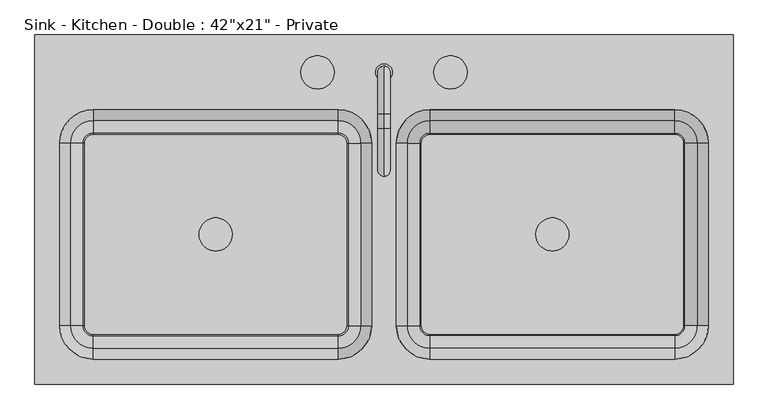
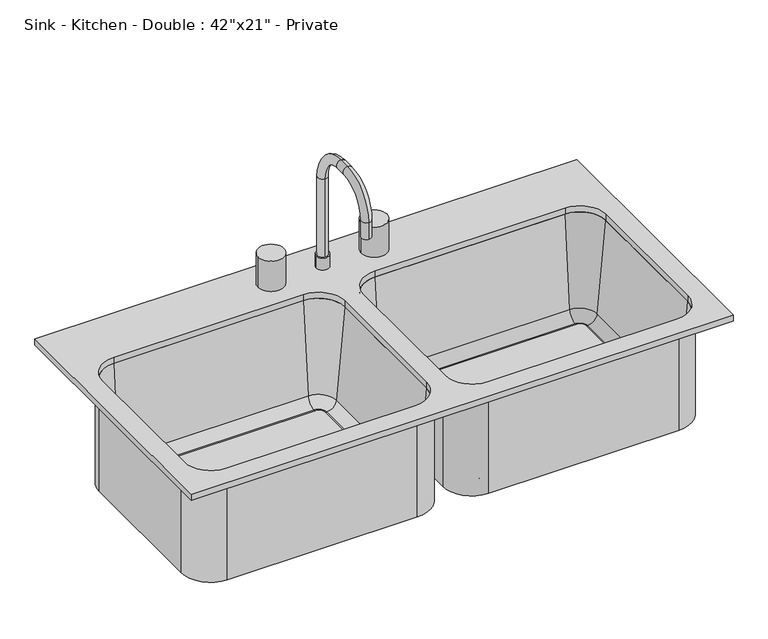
"""IFC4 building model written with IfcOpenShell, lengths in millimetres: flow terminal geometry."""

from ifc_helpers import new_model, si_unit, point, frame, frame_2d, origin, origin_with_axes, place, context, project, spatial, polyline, circle_curve, ellipse_curve, trimmed, segment, composite_curve, outline, extrude, source, transform, mapped, element, save
from ifc_brep_helpers import plane_surface, cylinder_surface, revolved_surface, advanced_brep


def flow_terminal_f86be223(model_context):
    return source(origin(), model_context, "Body", "SolidModel", [
        extrude(outline(composite_curve([segment(trimmed(circle_curve(frame_2d((444.5, -165.1)), 12.7), [point((444.5, -152.4))], [point((457.2, -165.1))], False, "CARTESIAN"), True, "CONTINUOUS"), segment(polyline([(457.2, -165.1), (457.2, -444.5)]), True, "CONTINUOUS"), segment(trimmed(circle_curve(frame_2d((444.5, -444.5)), 12.7), [point((457.2, -444.5))], [point((444.5, -457.2))], False, "CARTESIAN"), True, "CONTINUOUS"), segment(polyline([(444.5, -457.2), (69.85, -457.2)]), True, "CONTINUOUS"), segment(trimmed(circle_curve(frame_2d((69.85, -444.5)), 12.7), [point((69.85, -457.2))], [point((57.15, -444.5))], False, "CARTESIAN"), True, "CONTINUOUS"), segment(polyline([(57.15, -444.5), (57.15, -165.1)]), True, "CONTINUOUS"), segment(trimmed(circle_curve(frame_2d((69.85, -165.1)), 12.7), [point((57.15, -165.1))], [point((69.85, -152.4))], False, "CARTESIAN"), True, "CONTINUOUS"), segment(polyline([(69.85, -152.4), (444.5, -152.4)]), True, "CONTINUOUS")], self_intersect=False), holes=[composite_curve([segment(trimmed(circle_curve(frame_2d((257.175, -304.8)), 25.4), [point((231.775, -304.8))], [point((282.575, -304.8))], True, "CARTESIAN"), True, "CONTINUOUS"), segment(trimmed(circle_curve(frame_2d((257.175, -304.8)), 25.4), [point((282.575, -304.8))], [point((231.775, -304.8))], True, "CARTESIAN"), True, "CONTINUOUS")], self_intersect=False)]), frame((0.0, 0.0, -215.9), z_axis=(0.0, 0.0, 1.0), x_axis=(1.0, 0.0, 0.0)), (0.0, 0.0, 1.0), 9.525),
        advanced_brep(
        [(19.05, -165.1, 0.0), (69.85, -114.3, 0.0), (69.85, -107.95, 0.0), (12.7, -165.1, 0.0), (35.5840728, -165.1, -188.9853169), (69.85, -130.8340728, -188.9853169), (54.5615818, -165.1, -206.375), (69.85, -149.8115818, -206.375), (57.15, -165.1, -206.375), (69.85, -152.4, -206.375), (57.15, -165.1, -215.9), (69.85, -152.4, -215.9), (12.7, -165.1, -215.9), (69.85, -107.95, -215.9), (12.7, -444.5, 0.0), (19.05, -444.5, 0.0), (35.5840728, -444.5, -188.9853169), (54.5615818, -444.5, -206.375), (57.15, -444.5, -206.375), (57.15, -444.5, -215.9), (12.7, -444.5, -215.9), (69.85, -495.3, 0.0), (69.85, -501.65, 0.0), (69.85, -478.7659272, -188.9853169), (69.85, -459.7884182, -206.375), (69.85, -457.2, -206.375), (69.85, -457.2, -215.9), (69.85, -501.65, -215.9), (444.5, -501.65, 0.0), (444.5, -495.3, 0.0), (444.5, -478.7659272, -188.9853169), (444.5, -459.7884182, -206.375), (444.5, -457.2, -206.375), (444.5, -457.2, -215.9), (444.5, -501.65, -215.9), (495.3, -444.5, 0.0), (501.65, -444.5, 0.0), (478.7659272, -444.5, -188.9853169), (459.7884182, -444.5, -206.375), (457.2, -444.5, -206.375), (457.2, -444.5, -215.9), (501.65, -444.5, -215.9), (501.65, -165.1, 0.0), (495.3, -165.1, 0.0), (478.7659272, -165.1, -188.9853169), (459.7884182, -165.1, -206.375), (457.2, -165.1, -206.375), (457.2, -165.1, -215.9), (501.65, -165.1, -215.9), (444.5, -114.3, 0.0), (444.5, -107.95, 0.0), (444.5, -130.8340728, -188.9853169), (444.5, -149.8115818, -206.375), (444.5, -152.4, -206.375), (444.5, -152.4, -215.9), (444.5, -107.95, -215.9)],
        [
            (0, 1, circle_curve(frame((69.85, -165.1, 0.0), z_axis=(0.0, 0.0, -1.0), x_axis=(0.0, 1.0, 0.0)), 50.8)),
            (1, 2),
            (2, 3, circle_curve(frame((69.85, -165.1, 0.0), z_axis=(0.0, 0.0, 1.0), x_axis=(0.0, 1.0, 0.0)), 57.15)),
            (3, 0),
            (4, 5, circle_curve(frame((69.85, -165.1, -188.9853169), z_axis=(0.0, 0.0, -1.0), x_axis=(0.0, 1.0, 0.0)), 34.2659272)),
            (5, 1),
            (0, 4),
            (6, 7, circle_curve(frame((69.85, -165.1, -206.375), z_axis=(0.0, 0.0, -1.0), x_axis=(0.0, 1.0, 0.0)), 15.2884182)),
            (7, 5, circle_curve(frame((69.85, -149.8115818, -187.325), z_axis=(1.0, 0.0, 0.0), x_axis=(0.0, -1.0, 0.0)), 19.05)),
            (4, 6, circle_curve(frame((54.5615818, -165.1, -187.325), z_axis=(0.0, -1.0, 0.0), x_axis=(1.0, 0.0, 0.0)), 19.05)),
            (8, 9, circle_curve(frame((69.85, -165.1, -206.375), z_axis=(0.0, 0.0, -1.0), x_axis=(0.0, 1.0, 0.0)), 12.7)),
            (9, 7),
            (6, 8),
            (10, 11, circle_curve(frame((69.85, -165.1, -215.9), z_axis=(0.0, 0.0, -1.0), x_axis=(0.0, 1.0, 0.0)), 12.7)),
            (11, 9),
            (8, 10),
            (12, 13, circle_curve(frame((69.85, -165.1, -215.9), z_axis=(0.0, 0.0, -1.0), x_axis=(0.0, 1.0, 0.0)), 57.15)),
            (13, 11),
            (10, 12),
            (2, 13),
            (12, 3),
            (3, 14),
            (14, 15),
            (15, 0),
            (15, 16),
            (16, 4),
            (16, 17, circle_curve(frame((54.5615818, -444.5, -187.325), z_axis=(0.0, -1.0, 0.0), x_axis=(1.0, 0.0, 0.0)), 19.05)),
            (17, 6),
            (17, 18),
            (18, 8),
            (18, 19),
            (19, 10),
            (19, 20),
            (20, 12),
            (20, 14),
            (21, 15, circle_curve(frame((69.85, -444.5, 0.0), z_axis=(0.0, 0.0, -1.0), x_axis=(-1.0, 0.0, 0.0)), 50.8)),
            (14, 22, circle_curve(frame((69.85, -444.5, 0.0), z_axis=(0.0, 0.0, 1.0), x_axis=(-1.0, 0.0, 0.0)), 57.15)),
            (22, 21),
            (23, 16, circle_curve(frame((69.85, -444.5, -188.9853169), z_axis=(0.0, 0.0, -1.0), x_axis=(-1.0, 0.0, 0.0)), 34.2659272)),
            (21, 23),
            (24, 17, circle_curve(frame((69.85, -444.5, -206.375), z_axis=(0.0, 0.0, -1.0), x_axis=(-1.0, 0.0, 0.0)), 15.2884182)),
            (23, 24, circle_curve(frame((69.85, -459.7884182, -187.325), z_axis=(1.0, 0.0, 0.0), x_axis=(0.0, 1.0, 0.0)), 19.05)),
            (25, 18, circle_curve(frame((69.85, -444.5, -206.375), z_axis=(0.0, 0.0, -1.0), x_axis=(-1.0, 0.0, 0.0)), 12.7)),
            (24, 25),
            (26, 19, circle_curve(frame((69.85, -444.5, -215.9), z_axis=(0.0, 0.0, -1.0), x_axis=(-1.0, 0.0, 0.0)), 12.7)),
            (25, 26),
            (27, 20, circle_curve(frame((69.85, -444.5, -215.9), z_axis=(0.0, 0.0, -1.0), x_axis=(-1.0, 0.0, 0.0)), 57.15)),
            (26, 27),
            (27, 22),
            (22, 28),
            (28, 29),
            (29, 21),
            (29, 30),
            (30, 23),
            (30, 31, circle_curve(frame((444.5, -459.7884182, -187.325), z_axis=(1.0, 0.0, 0.0), x_axis=(0.0, 1.0, 0.0)), 19.05)),
            (31, 24),
            (31, 32),
            (32, 25),
            (32, 33),
            (33, 26),
            (33, 34),
            (34, 27),
            (34, 28),
            (35, 29, circle_curve(frame((444.5, -444.5, 0.0), z_axis=(0.0, 0.0, -1.0), x_axis=(0.0, -1.0, 0.0)), 50.8)),
            (28, 36, circle_curve(frame((444.5, -444.5, 0.0), z_axis=(0.0, 0.0, 1.0), x_axis=(0.0, -1.0, 0.0)), 57.15)),
            (36, 35),
            (37, 30, circle_curve(frame((444.5, -444.5, -188.9853169), z_axis=(0.0, 0.0, -1.0), x_axis=(0.0, -1.0, 0.0)), 34.2659272)),
            (35, 37),
            (38, 31, circle_curve(frame((444.5, -444.5, -206.375), z_axis=(0.0, 0.0, -1.0), x_axis=(0.0, -1.0, 0.0)), 15.2884182)),
            (37, 38, circle_curve(frame((459.7884182, -444.5, -187.325), z_axis=(0.0, 1.0, 0.0), x_axis=(-1.0, 0.0, 0.0)), 19.05)),
            (39, 32, circle_curve(frame((444.5, -444.5, -206.375), z_axis=(0.0, 0.0, -1.0), x_axis=(0.0, -1.0, 0.0)), 12.7)),
            (38, 39),
            (40, 33, circle_curve(frame((444.5, -444.5, -215.9), z_axis=(0.0, 0.0, -1.0), x_axis=(0.0, -1.0, 0.0)), 12.7)),
            (39, 40),
            (41, 34, circle_curve(frame((444.5, -444.5, -215.9), z_axis=(0.0, 0.0, -1.0), x_axis=(0.0, -1.0, 0.0)), 57.15)),
            (40, 41),
            (41, 36),
            (36, 42),
            (42, 43),
            (43, 35),
            (43, 44),
            (44, 37),
            (44, 45, circle_curve(frame((459.7884182, -165.1, -187.325), z_axis=(0.0, 1.0, 0.0), x_axis=(-1.0, 0.0, 0.0)), 19.05)),
            (45, 38),
            (45, 46),
            (46, 39),
            (46, 47),
            (47, 40),
            (47, 48),
            (48, 41),
            (48, 42),
            (49, 43, circle_curve(frame((444.5, -165.1, 0.0), z_axis=(0.0, 0.0, -1.0), x_axis=(1.0, 0.0, 0.0)), 50.8)),
            (42, 50, circle_curve(frame((444.5, -165.1, 0.0), z_axis=(0.0, 0.0, 1.0), x_axis=(1.0, 0.0, 0.0)), 57.15)),
            (50, 49),
            (51, 44, circle_curve(frame((444.5, -165.1, -188.9853169), z_axis=(0.0, 0.0, -1.0), x_axis=(1.0, 0.0, 0.0)), 34.2659272)),
            (49, 51),
            (52, 45, circle_curve(frame((444.5, -165.1, -206.375), z_axis=(0.0, 0.0, -1.0), x_axis=(1.0, 0.0, 0.0)), 15.2884182)),
            (51, 52, circle_curve(frame((444.5, -149.8115818, -187.325), z_axis=(-1.0, 0.0, 0.0), x_axis=(0.0, -1.0, 0.0)), 19.05)),
            (53, 46, circle_curve(frame((444.5, -165.1, -206.375), z_axis=(0.0, 0.0, -1.0), x_axis=(1.0, 0.0, 0.0)), 12.7)),
            (52, 53),
            (54, 47, circle_curve(frame((444.5, -165.1, -215.9), z_axis=(0.0, 0.0, -1.0), x_axis=(1.0, 0.0, 0.0)), 12.7)),
            (53, 54),
            (55, 48, circle_curve(frame((444.5, -165.1, -215.9), z_axis=(0.0, 0.0, -1.0), x_axis=(1.0, 0.0, 0.0)), 57.15)),
            (54, 55),
            (55, 50),
            (50, 2),
            (1, 49),
            (5, 51),
            (7, 52),
            (9, 53),
            (11, 54),
            (13, 55),
        ],
        [
            plane_surface(frame((69.85, -165.1, 0.0), z_axis=(0.0, 0.0, 1.0), x_axis=(0.0, 1.0, 0.0))),
            revolved_surface(polyline([(69.85, -114.3, 0.0), (69.85, -130.8340728, -188.9853169)]), (69.85, -165.1, -914.4), (0.0, 0.0, 1.0)),
            revolved_surface(trimmed(ellipse_curve(frame((69.85, -149.8115818, -187.325), z_axis=(-1.0, 0.0, 0.0), x_axis=(0.0, -1.0, 0.0)), 19.05, 19.05), [point((69.85, -130.8340728, -188.9853169))], [point((69.85, -149.8115818, -206.375))], True, "CARTESIAN"), (69.85, -165.1, -914.4), (0.0, 0.0, 1.0)),
            plane_surface(frame((69.85, -165.1, -206.375), z_axis=(0.0, 0.0, 1.0), x_axis=(0.0, 1.0, 0.0))),
            revolved_surface(polyline([(69.85, -152.4, -206.375), (69.85, -152.4, -215.89999999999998)]), (69.85, -165.1, -914.4), (0.0, 0.0, 1.0)),
            plane_surface(frame((69.85, -165.1, -215.9), z_axis=(0.0, 0.0, -1.0), x_axis=(0.0, 1.0, 0.0))),
            cylinder_surface(frame((69.85, -165.1, -914.4), z_axis=(0.0, 0.0, 1.0), x_axis=(0.0, 1.0, 0.0)), 57.15),
            plane_surface(frame((12.7, -165.1, 0.0), z_axis=(0.0, 0.0, 1.0), x_axis=(0.0, -1.0, 0.0))),
            plane_surface(frame((19.05, -165.1, 0.0), z_axis=(0.9961946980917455, 0.0, 0.0871557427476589), x_axis=(0.0, -1.0, 0.0))),
            revolved_surface(polyline([(73.6115818, -444.5, -187.325), (73.6115818, -165.1, -187.325)]), (54.5615818, -165.1, -187.325), (0.0, -1.0, 0.0)),
            plane_surface(frame((54.5615818, -165.1, -206.375), z_axis=(0.0, 0.0, 1.0), x_axis=(0.0, -1.0, 0.0))),
            plane_surface(frame((57.15, -165.1, -206.375), z_axis=(1.0, 0.0, 0.0), x_axis=(0.0, -1.0, 0.0))),
            plane_surface(frame((57.15, -165.1, -215.9), z_axis=(0.0, 0.0, -1.0), x_axis=(0.0, -1.0, 0.0))),
            plane_surface(frame((12.7, -165.1, -215.9), z_axis=(-1.0, 0.0, 0.0), x_axis=(0.0, -1.0, 0.0))),
            plane_surface(frame((69.85, -444.5, 0.0), z_axis=(0.0, 0.0, 1.0), x_axis=(-1.0, 0.0, 0.0))),
            revolved_surface(polyline([(19.05, -444.5, 0.0), (35.5840728, -444.5, -188.9853169)]), (69.85, -444.5, -914.4), (0.0, 0.0, 1.0)),
            revolved_surface(trimmed(ellipse_curve(frame((54.5615818, -444.5, -187.325), z_axis=(0.0, -1.0, 0.0), x_axis=(1.0, 0.0, 0.0)), 19.05, 19.05), [point((35.5840728, -444.5, -188.9853169))], [point((54.5615818, -444.5, -206.375))], True, "CARTESIAN"), (69.85, -444.5, -914.4), (0.0, 0.0, 1.0)),
            plane_surface(frame((69.85, -444.5, -206.375), z_axis=(0.0, 0.0, 1.0), x_axis=(-1.0, 0.0, 0.0))),
            revolved_surface(polyline([(57.14999999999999, -444.5, -206.375), (57.14999999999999, -444.5, -215.89999999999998)]), (69.85, -444.5, -914.4), (0.0, 0.0, 1.0)),
            plane_surface(frame((69.85, -444.5, -215.9), z_axis=(0.0, 0.0, -1.0), x_axis=(-1.0, 0.0, 0.0))),
            cylinder_surface(frame((69.85, -444.5, -914.4), z_axis=(0.0, 0.0, 1.0), x_axis=(-1.0, 0.0, 0.0)), 57.15),
            plane_surface(frame((69.85, -501.65, 0.0), z_axis=(0.0, 0.0, 1.0), x_axis=(1.0, 0.0, 0.0))),
            plane_surface(frame((69.85, -495.3, 0.0), z_axis=(0.0, 0.9961946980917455, 0.0871557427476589), x_axis=(1.0, 0.0, 0.0))),
            revolved_surface(polyline([(444.5, -440.7384182, -187.325), (69.85, -440.7384182, -187.325)]), (69.85, -459.7884182, -187.325), (1.0, 0.0, 0.0)),
            plane_surface(frame((69.85, -459.7884182, -206.375), z_axis=(0.0, 0.0, 1.0), x_axis=(1.0, 0.0, 0.0))),
            plane_surface(frame((69.85, -457.2, -206.375), z_axis=(0.0, 1.0, 0.0), x_axis=(1.0, 0.0, 0.0))),
            plane_surface(frame((69.85, -457.2, -215.9), z_axis=(0.0, 0.0, -1.0), x_axis=(1.0, 0.0, 0.0))),
            plane_surface(frame((69.85, -501.65, -215.9), z_axis=(0.0, -1.0, 0.0), x_axis=(1.0, 0.0, 0.0))),
            plane_surface(frame((444.5, -444.5, 0.0), z_axis=(0.0, 0.0, 1.0), x_axis=(0.0, -1.0, 0.0))),
            revolved_surface(polyline([(444.5, -495.3, 0.0), (444.5, -478.7659272, -188.9853169)]), (444.5, -444.5, -914.4), (0.0, 0.0, 1.0)),
            revolved_surface(trimmed(ellipse_curve(frame((444.5, -459.7884182, -187.325), z_axis=(1.0, 0.0, 0.0), x_axis=(0.0, 1.0, 0.0)), 19.05, 19.05), [point((444.5, -478.7659272, -188.9853169))], [point((444.5, -459.7884182, -206.375))], True, "CARTESIAN"), (444.5, -444.5, -914.4), (0.0, 0.0, 1.0)),
            plane_surface(frame((444.5, -444.5, -206.375), z_axis=(0.0, 0.0, 1.0), x_axis=(0.0, -1.0, 0.0))),
            revolved_surface(polyline([(444.5, -457.2, -206.375), (444.5, -457.2, -215.89999999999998)]), (444.5, -444.5, -914.4), (0.0, 0.0, 1.0)),
            plane_surface(frame((444.5, -444.5, -215.9), z_axis=(0.0, 0.0, -1.0), x_axis=(0.0, -1.0, 0.0))),
            cylinder_surface(frame((444.5, -444.5, -914.4), z_axis=(0.0, 0.0, 1.0), x_axis=(0.0, -1.0, 0.0)), 57.15),
            plane_surface(frame((501.65, -444.5, 0.0), z_axis=(0.0, 0.0, 1.0), x_axis=(0.0, 1.0, 0.0))),
            plane_surface(frame((495.3, -444.5, 0.0), z_axis=(-0.9961946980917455, 0.0, 0.0871557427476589), x_axis=(0.0, 1.0, 0.0))),
            revolved_surface(polyline([(440.7384182, -165.10000000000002, -187.325), (440.7384182, -444.5, -187.325)]), (459.7884182, -444.5, -187.325), (0.0, 1.0, 0.0)),
            plane_surface(frame((459.7884182, -444.5, -206.375), z_axis=(0.0, 0.0, 1.0), x_axis=(0.0, 1.0, 0.0))),
            plane_surface(frame((457.2, -444.5, -206.375), z_axis=(-1.0, 0.0, 0.0), x_axis=(0.0, 1.0, 0.0))),
            plane_surface(frame((457.2, -444.5, -215.9), z_axis=(0.0, 0.0, -1.0), x_axis=(0.0, 1.0, 0.0))),
            plane_surface(frame((501.65, -444.5, -215.9), z_axis=(1.0, 0.0, 0.0), x_axis=(0.0, 1.0, 0.0))),
            plane_surface(frame((444.5, -165.1, 0.0), z_axis=(0.0, 0.0, 1.0), x_axis=(1.0, 0.0, 0.0))),
            revolved_surface(polyline([(495.3, -165.1, 0.0), (478.7659272, -165.1, -188.9853169)]), (444.5, -165.1, -914.4), (0.0, 0.0, 1.0)),
            revolved_surface(trimmed(ellipse_curve(frame((459.7884182, -165.1, -187.325), z_axis=(0.0, 1.0, 0.0), x_axis=(-1.0, 0.0, 0.0)), 19.05, 19.05), [point((478.7659272, -165.1, -188.9853169))], [point((459.7884182, -165.1, -206.375))], True, "CARTESIAN"), (444.5, -165.1, -914.4), (0.0, 0.0, 1.0)),
            plane_surface(frame((444.5, -165.1, -206.375), z_axis=(0.0, 0.0, 1.0), x_axis=(1.0, 0.0, 0.0))),
            revolved_surface(polyline([(457.2, -165.1, -206.375), (457.2, -165.1, -215.89999999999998)]), (444.5, -165.1, -914.4), (0.0, 0.0, 1.0)),
            plane_surface(frame((444.5, -165.1, -215.9), z_axis=(0.0, 0.0, -1.0), x_axis=(1.0, 0.0, 0.0))),
            cylinder_surface(frame((444.5, -165.1, -914.4), z_axis=(0.0, 0.0, 1.0), x_axis=(1.0, 0.0, 0.0)), 57.15),
            plane_surface(frame((444.5, -107.95, 0.0), z_axis=(0.0, 0.0, 1.0), x_axis=(-1.0, 0.0, 0.0))),
            plane_surface(frame((444.5, -114.3, 0.0), z_axis=(0.0, -0.9961946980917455, 0.0871557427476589), x_axis=(-1.0, 0.0, 0.0))),
            revolved_surface(polyline([(69.85000000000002, -168.8615818, -187.325), (444.5, -168.8615818, -187.325)]), (444.5, -149.8115818, -187.325), (-1.0, 0.0, 0.0)),
            plane_surface(frame((444.5, -149.8115818, -206.375), z_axis=(0.0, 0.0, 1.0), x_axis=(-1.0, 0.0, 0.0))),
            plane_surface(frame((444.5, -152.4, -206.375), z_axis=(0.0, -1.0, 0.0), x_axis=(-1.0, 0.0, 0.0))),
            plane_surface(frame((444.5, -152.4, -215.9), z_axis=(0.0, 0.0, -1.0), x_axis=(-1.0, 0.0, 0.0))),
            plane_surface(frame((444.5, -107.95, -215.9), z_axis=(0.0, 1.0, 0.0), x_axis=(-1.0, 0.0, 0.0))),
        ],
        [
            (0, [[1, 2, 3, 4]]),
            (1, [[5, 6, -1, 7]]),
            (2, [[8, 9, -5, 10]]),
            (3, [[11, 12, -8, 13]]),
            (4, [[14, 15, -11, 16]]),
            (5, [[17, 18, -14, 19]]),
            (6, [[-3, 20, -17, 21]]),
            (7, [[-4, 22, 23, 24]]),
            (8, [[-7, -24, 25, 26]]),
            (9, [[-10, -26, 27, 28]]),
            (10, [[-13, -28, 29, 30]]),
            (11, [[-16, -30, 31, 32]]),
            (12, [[-19, -32, 33, 34]]),
            (13, [[-21, -34, 35, -22]]),
            (14, [[36, -23, 37, 38]]),
            (15, [[39, -25, -36, 40]]),
            (16, [[41, -27, -39, 42]]),
            (17, [[43, -29, -41, 44]]),
            (18, [[45, -31, -43, 46]]),
            (19, [[47, -33, -45, 48]]),
            (20, [[-37, -35, -47, 49]]),
            (21, [[-38, 50, 51, 52]]),
            (22, [[-40, -52, 53, 54]]),
            (23, [[-42, -54, 55, 56]]),
            (24, [[-44, -56, 57, 58]]),
            (25, [[-46, -58, 59, 60]]),
            (26, [[-48, -60, 61, 62]]),
            (27, [[-49, -62, 63, -50]]),
            (28, [[64, -51, 65, 66]]),
            (29, [[67, -53, -64, 68]]),
            (30, [[69, -55, -67, 70]]),
            (31, [[71, -57, -69, 72]]),
            (32, [[73, -59, -71, 74]]),
            (33, [[75, -61, -73, 76]]),
            (34, [[-65, -63, -75, 77]]),
            (35, [[-66, 78, 79, 80]]),
            (36, [[-68, -80, 81, 82]]),
            (37, [[-70, -82, 83, 84]]),
            (38, [[-72, -84, 85, 86]]),
            (39, [[-74, -86, 87, 88]]),
            (40, [[-76, -88, 89, 90]]),
            (41, [[-77, -90, 91, -78]]),
            (42, [[92, -79, 93, 94]]),
            (43, [[95, -81, -92, 96]]),
            (44, [[97, -83, -95, 98]]),
            (45, [[99, -85, -97, 100]]),
            (46, [[101, -87, -99, 102]]),
            (47, [[103, -89, -101, 104]]),
            (48, [[-93, -91, -103, 105]]),
            (49, [[-94, 106, -2, 107]]),
            (50, [[-96, -107, -6, 108]]),
            (51, [[-98, -108, -9, 109]]),
            (52, [[-100, -109, -12, 110]]),
            (53, [[-102, -110, -15, 111]]),
            (54, [[-104, -111, -18, 112]]),
            (55, [[-105, -112, -20, -106]]),
        ],
    ),
        extrude(outline(composite_curve([segment(trimmed(circle_curve(frame_2d((-69.85, -165.1)), 12.7), [point((-69.85, -152.4))], [point((-57.15, -165.1))], False, "CARTESIAN"), True, "CONTINUOUS"), segment(polyline([(-57.15, -165.1), (-57.15, -444.5)]), True, "CONTINUOUS"), segment(trimmed(circle_curve(frame_2d((-69.85, -444.5)), 12.7), [point((-57.15, -444.5))], [point((-69.85, -457.2))], False, "CARTESIAN"), True, "CONTINUOUS"), segment(polyline([(-69.85, -457.2), (-444.5, -457.2)]), True, "CONTINUOUS"), segment(trimmed(circle_curve(frame_2d((-444.5, -444.5)), 12.7), [point((-444.5, -457.2))], [point((-457.2, -444.5))], False, "CARTESIAN"), True, "CONTINUOUS"), segment(polyline([(-457.2, -444.5), (-457.2, -165.1)]), True, "CONTINUOUS"), segment(trimmed(circle_curve(frame_2d((-444.5, -165.1)), 12.7), [point((-457.2, -165.1))], [point((-444.5, -152.4))], False, "CARTESIAN"), True, "CONTINUOUS"), segment(polyline([(-444.5, -152.4), (-69.85, -152.4)]), True, "CONTINUOUS")], self_intersect=False), holes=[composite_curve([segment(trimmed(circle_curve(frame_2d((-257.175, -304.8)), 25.4), [point((-282.575, -304.8))], [point((-231.775, -304.8))], True, "CARTESIAN"), True, "CONTINUOUS"), segment(trimmed(circle_curve(frame_2d((-257.175, -304.8)), 25.4), [point((-231.775, -304.8))], [point((-282.575, -304.8))], True, "CARTESIAN"), True, "CONTINUOUS")], self_intersect=False)]), frame((0.0, 0.0, -215.9), z_axis=(0.0, 0.0, 1.0), x_axis=(1.0, 0.0, 0.0)), (0.0, 0.0, 1.0), 9.525),
        advanced_brep(
        [(-12.7, -165.1, -215.9), (-69.85, -107.95, -215.9), (-69.85, -107.95, 0.0), (-12.7, -165.1, 0.0), (-57.15, -165.1, -215.9), (-69.85, -152.4, -215.9), (-57.15, -165.1, -206.375), (-69.85, -152.4, -206.375), (-54.5615818, -165.1, -206.375), (-69.85, -149.8115818, -206.375), (-35.5840728, -165.1, -188.9853169), (-69.85, -130.8340728, -188.9853169), (-19.05, -165.1, 0.0), (-69.85, -114.3, 0.0), (-12.7, -444.5, 0.0), (-12.7, -444.5, -215.9), (-57.15, -444.5, -215.9), (-57.15, -444.5, -206.375), (-54.5615818, -444.5, -206.375), (-35.5840728, -444.5, -188.9853169), (-19.05, -444.5, 0.0), (-69.85, -501.65, -215.9), (-69.85, -501.65, 0.0), (-69.85, -457.2, -215.9), (-69.85, -457.2, -206.375), (-69.85, -459.7884182, -206.375), (-69.85, -478.7659272, -188.9853169), (-69.85, -495.3, 0.0), (-444.5, -501.65, 0.0), (-444.5, -501.65, -215.9), (-444.5, -457.2, -215.9), (-444.5, -457.2, -206.375), (-444.5, -459.7884182, -206.375), (-444.5, -478.7659272, -188.9853169), (-444.5, -495.3, 0.0), (-501.65, -444.5, -215.9), (-501.65, -444.5, 0.0), (-457.2, -444.5, -215.9), (-457.2, -444.5, -206.375), (-459.7884182, -444.5, -206.375), (-478.7659272, -444.5, -188.9853169), (-495.3, -444.5, 0.0), (-501.65, -165.1, 0.0), (-501.65, -165.1, -215.9), (-457.2, -165.1, -215.9), (-457.2, -165.1, -206.375), (-459.7884182, -165.1, -206.375), (-478.7659272, -165.1, -188.9853169), (-495.3, -165.1, 0.0), (-444.5, -107.95, -215.9), (-444.5, -107.95, 0.0), (-444.5, -152.4, -215.9), (-444.5, -152.4, -206.375), (-444.5, -149.8115818, -206.375), (-444.5, -130.8340728, -188.9853169), (-444.5, -114.3, 0.0)],
        [
            (0, 1, circle_curve(frame((-69.85, -165.1, -215.9), z_axis=(0.0, 0.0, 1.0), x_axis=(0.0, 1.0, 0.0)), 57.15)),
            (1, 2),
            (2, 3, circle_curve(frame((-69.85, -165.1, 0.0), z_axis=(0.0, 0.0, -1.0), x_axis=(0.0, 1.0, 0.0)), 57.15)),
            (3, 0),
            (4, 5, circle_curve(frame((-69.85, -165.1, -215.9), z_axis=(0.0, 0.0, 1.0), x_axis=(0.0, 1.0, 0.0)), 12.7)),
            (5, 1),
            (0, 4),
            (6, 7, circle_curve(frame((-69.85, -165.1, -206.375), z_axis=(0.0, 0.0, 1.0), x_axis=(0.0, 1.0, 0.0)), 12.7)),
            (7, 5),
            (4, 6),
            (8, 9, circle_curve(frame((-69.85, -165.1, -206.375), z_axis=(0.0, 0.0, 1.0), x_axis=(0.0, 1.0, 0.0)), 15.2884182)),
            (9, 7),
            (6, 8),
            (10, 11, circle_curve(frame((-69.85, -165.1, -188.9853169), z_axis=(0.0, 0.0, 1.0), x_axis=(0.0, 1.0, 0.0)), 34.2659272)),
            (11, 9, circle_curve(frame((-69.85, -149.8115818, -187.325), z_axis=(-1.0, 0.0, 0.0), x_axis=(0.0, 1.0, 0.0)), 19.05)),
            (8, 10, circle_curve(frame((-54.5615818, -165.1, -187.325), z_axis=(0.0, -1.0, 0.0), x_axis=(1.0, 0.0, 0.0)), 19.05)),
            (12, 13, circle_curve(frame((-69.85, -165.1, 0.0), z_axis=(0.0, 0.0, 1.0), x_axis=(0.0, 1.0, 0.0)), 50.8)),
            (13, 11),
            (10, 12),
            (2, 13),
            (12, 3),
            (3, 14),
            (14, 15),
            (15, 0),
            (15, 16),
            (16, 4),
            (16, 17),
            (17, 6),
            (17, 18),
            (18, 8),
            (18, 19, circle_curve(frame((-54.5615818, -444.5, -187.325), z_axis=(0.0, -1.0, 0.0), x_axis=(1.0, 0.0, 0.0)), 19.05)),
            (19, 10),
            (19, 20),
            (20, 12),
            (20, 14),
            (21, 15, circle_curve(frame((-69.85, -444.5, -215.9), z_axis=(0.0, 0.0, 1.0), x_axis=(1.0, 0.0, 0.0)), 57.15)),
            (14, 22, circle_curve(frame((-69.85, -444.5, 0.0), z_axis=(0.0, 0.0, -1.0), x_axis=(1.0, 0.0, 0.0)), 57.15)),
            (22, 21),
            (23, 16, circle_curve(frame((-69.85, -444.5, -215.9), z_axis=(0.0, 0.0, 1.0), x_axis=(1.0, 0.0, 0.0)), 12.7)),
            (21, 23),
            (24, 17, circle_curve(frame((-69.85, -444.5, -206.375), z_axis=(0.0, 0.0, 1.0), x_axis=(1.0, 0.0, 0.0)), 12.7)),
            (23, 24),
            (25, 18, circle_curve(frame((-69.85, -444.5, -206.375), z_axis=(0.0, 0.0, 1.0), x_axis=(1.0, 0.0, 0.0)), 15.2884182)),
            (24, 25),
            (26, 19, circle_curve(frame((-69.85, -444.5, -188.9853169), z_axis=(0.0, 0.0, 1.0), x_axis=(1.0, 0.0, 0.0)), 34.2659272)),
            (25, 26, circle_curve(frame((-69.85, -459.7884182, -187.325), z_axis=(-1.0, 0.0, 0.0), x_axis=(0.0, -1.0, 0.0)), 19.05)),
            (27, 20, circle_curve(frame((-69.85, -444.5, 0.0), z_axis=(0.0, 0.0, 1.0), x_axis=(1.0, 0.0, 0.0)), 50.8)),
            (26, 27),
            (27, 22),
            (22, 28),
            (28, 29),
            (29, 21),
            (29, 30),
            (30, 23),
            (30, 31),
            (31, 24),
            (31, 32),
            (32, 25),
            (32, 33, circle_curve(frame((-444.5, -459.7884182, -187.325), z_axis=(-1.0, 0.0, 0.0), x_axis=(0.0, -1.0, 0.0)), 19.05)),
            (33, 26),
            (33, 34),
            (34, 27),
            (34, 28),
            (35, 29, circle_curve(frame((-444.5, -444.5, -215.9), z_axis=(0.0, 0.0, 1.0), x_axis=(0.0, -1.0, 0.0)), 57.15)),
            (28, 36, circle_curve(frame((-444.5, -444.5, 0.0), z_axis=(0.0, 0.0, -1.0), x_axis=(0.0, -1.0, 0.0)), 57.15)),
            (36, 35),
            (37, 30, circle_curve(frame((-444.5, -444.5, -215.9), z_axis=(0.0, 0.0, 1.0), x_axis=(0.0, -1.0, 0.0)), 12.7)),
            (35, 37),
            (38, 31, circle_curve(frame((-444.5, -444.5, -206.375), z_axis=(0.0, 0.0, 1.0), x_axis=(0.0, -1.0, 0.0)), 12.7)),
            (37, 38),
            (39, 32, circle_curve(frame((-444.5, -444.5, -206.375), z_axis=(0.0, 0.0, 1.0), x_axis=(0.0, -1.0, 0.0)), 15.2884182)),
            (38, 39),
            (40, 33, circle_curve(frame((-444.5, -444.5, -188.9853169), z_axis=(0.0, 0.0, 1.0), x_axis=(0.0, -1.0, 0.0)), 34.2659272)),
            (39, 40, circle_curve(frame((-459.7884182, -444.5, -187.325), z_axis=(0.0, 1.0, 0.0), x_axis=(-1.0, 0.0, 0.0)), 19.05)),
            (41, 34, circle_curve(frame((-444.5, -444.5, 0.0), z_axis=(0.0, 0.0, 1.0), x_axis=(0.0, -1.0, 0.0)), 50.8)),
            (40, 41),
            (41, 36),
            (36, 42),
            (42, 43),
            (43, 35),
            (43, 44),
            (44, 37),
            (44, 45),
            (45, 38),
            (45, 46),
            (46, 39),
            (46, 47, circle_curve(frame((-459.7884182, -165.1, -187.325), z_axis=(0.0, 1.0, 0.0), x_axis=(-1.0, 0.0, 0.0)), 19.05)),
            (47, 40),
            (47, 48),
            (48, 41),
            (48, 42),
            (49, 43, circle_curve(frame((-444.5, -165.1, -215.9), z_axis=(0.0, 0.0, 1.0), x_axis=(-1.0, 0.0, 0.0)), 57.15)),
            (42, 50, circle_curve(frame((-444.5, -165.1, 0.0), z_axis=(0.0, 0.0, -1.0), x_axis=(-1.0, 0.0, 0.0)), 57.15)),
            (50, 49),
            (51, 44, circle_curve(frame((-444.5, -165.1, -215.9), z_axis=(0.0, 0.0, 1.0), x_axis=(-1.0, 0.0, 0.0)), 12.7)),
            (49, 51),
            (52, 45, circle_curve(frame((-444.5, -165.1, -206.375), z_axis=(0.0, 0.0, 1.0), x_axis=(-1.0, 0.0, 0.0)), 12.7)),
            (51, 52),
            (53, 46, circle_curve(frame((-444.5, -165.1, -206.375), z_axis=(0.0, 0.0, 1.0), x_axis=(-1.0, 0.0, 0.0)), 15.2884182)),
            (52, 53),
            (54, 47, circle_curve(frame((-444.5, -165.1, -188.9853169), z_axis=(0.0, 0.0, 1.0), x_axis=(-1.0, 0.0, 0.0)), 34.2659272)),
            (53, 54, circle_curve(frame((-444.5, -149.8115818, -187.325), z_axis=(1.0, 0.0, 0.0), x_axis=(0.0, 1.0, 0.0)), 19.05)),
            (55, 48, circle_curve(frame((-444.5, -165.1, 0.0), z_axis=(0.0, 0.0, 1.0), x_axis=(-1.0, 0.0, 0.0)), 50.8)),
            (54, 55),
            (55, 50),
            (50, 2),
            (1, 49),
            (5, 51),
            (7, 52),
            (9, 53),
            (11, 54),
            (13, 55),
        ],
        [
            cylinder_surface(frame((-69.85, -165.1, -914.4), z_axis=(0.0, 0.0, -1.0), x_axis=(0.0, 1.0, 0.0)), 57.15),
            plane_surface(frame((-69.85, -165.1, -215.9), z_axis=(0.0, 0.0, -1.0), x_axis=(0.0, 1.0, 0.0))),
            revolved_surface(polyline([(-69.85, -152.4, -215.89999999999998), (-69.85, -152.4, -206.375)]), (-69.85, -165.1, -914.4), (0.0, 0.0, -1.0)),
            plane_surface(frame((-69.85, -165.1, -206.375), z_axis=(0.0, 0.0, 1.0), x_axis=(0.0, 1.0, 0.0))),
            revolved_surface(trimmed(ellipse_curve(frame((-69.85, -149.8115818, -187.325), z_axis=(1.0, 0.0, 0.0), x_axis=(0.0, 1.0, 0.0)), 19.05, 19.05), [point((-69.85, -149.8115818, -206.375))], [point((-69.85, -130.8340728, -188.9853169))], True, "CARTESIAN"), (-69.85, -165.1, -914.4), (0.0, 0.0, -1.0)),
            revolved_surface(polyline([(-69.85, -130.8340728, -188.9853169), (-69.85, -114.3, 0.0)]), (-69.85, -165.1, -914.4), (0.0, 0.0, -1.0)),
            plane_surface(frame((-69.85, -165.1, 0.0), z_axis=(0.0, 0.0, 1.0), x_axis=(0.0, 1.0, 0.0))),
            plane_surface(frame((-12.7, -165.1, 0.0), z_axis=(1.0, 0.0, 0.0), x_axis=(0.0, -1.0, 0.0))),
            plane_surface(frame((-12.7, -165.1, -215.9), z_axis=(0.0, 0.0, -1.0), x_axis=(0.0, -1.0, 0.0))),
            plane_surface(frame((-57.15, -165.1, -215.9), z_axis=(-1.0, 0.0, 0.0), x_axis=(0.0, -1.0, 0.0))),
            plane_surface(frame((-57.15, -165.1, -206.375), z_axis=(0.0, 0.0, 1.0), x_axis=(0.0, -1.0, 0.0))),
            revolved_surface(polyline([(-35.5115818, -444.5, -187.325), (-35.5115818, -165.1, -187.325)]), (-54.5615818, -165.1, -187.325), (0.0, -1.0, 0.0)),
            plane_surface(frame((-35.5840728, -165.1, -188.9853169), z_axis=(-0.9961946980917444, 0.0, 0.08715574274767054), x_axis=(0.0, -1.0, 0.0))),
            plane_surface(frame((-19.05, -165.1, 0.0), z_axis=(0.0, 0.0, 1.0), x_axis=(0.0, -1.0, 0.0))),
            cylinder_surface(frame((-69.85, -444.5, -914.4), z_axis=(0.0, 0.0, -1.0), x_axis=(1.0, 0.0, 0.0)), 57.15),
            plane_surface(frame((-69.85, -444.5, -215.9), z_axis=(0.0, 0.0, -1.0), x_axis=(1.0, 0.0, 0.0))),
            revolved_surface(polyline([(-57.14999999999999, -444.5, -215.89999999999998), (-57.14999999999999, -444.5, -206.375)]), (-69.85, -444.5, -914.4), (0.0, 0.0, -1.0)),
            plane_surface(frame((-69.85, -444.5, -206.375), z_axis=(0.0, 0.0, 1.0), x_axis=(1.0, 0.0, 0.0))),
            revolved_surface(trimmed(ellipse_curve(frame((-54.5615818, -444.5, -187.325), z_axis=(0.0, -1.0, 0.0), x_axis=(1.0, 0.0, 0.0)), 19.05, 19.05), [point((-54.5615818, -444.5, -206.375))], [point((-35.5840728, -444.5, -188.9853169))], True, "CARTESIAN"), (-69.85, -444.5, -914.4), (0.0, 0.0, -1.0)),
            revolved_surface(polyline([(-35.5840728, -444.5, -188.9853169), (-19.05, -444.5, 0.0)]), (-69.85, -444.5, -914.4), (0.0, 0.0, -1.0)),
            plane_surface(frame((-69.85, -444.5, 0.0), z_axis=(0.0, 0.0, 1.0), x_axis=(1.0, 0.0, 0.0))),
            plane_surface(frame((-69.85, -501.65, 0.0), z_axis=(0.0, -1.0, 0.0), x_axis=(-1.0, 0.0, 0.0))),
            plane_surface(frame((-69.85, -501.65, -215.9), z_axis=(0.0, 0.0, -1.0), x_axis=(-1.0, 0.0, 0.0))),
            plane_surface(frame((-69.85, -457.2, -215.9), z_axis=(0.0, 1.0, 0.0), x_axis=(-1.0, 0.0, 0.0))),
            plane_surface(frame((-69.85, -457.2, -206.375), z_axis=(0.0, 0.0, 1.0), x_axis=(-1.0, 0.0, 0.0))),
            revolved_surface(polyline([(-444.5, -478.83841820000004, -187.325), (-69.85, -478.83841820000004, -187.325)]), (-69.85, -459.7884182, -187.325), (-1.0, 0.0, 0.0)),
            plane_surface(frame((-69.85, -478.7659272, -188.9853169), z_axis=(0.0, 0.9961946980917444, 0.08715574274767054), x_axis=(-1.0, 0.0, 0.0))),
            plane_surface(frame((-69.85, -495.3, 0.0), z_axis=(0.0, 0.0, 1.0), x_axis=(-1.0, 0.0, 0.0))),
            cylinder_surface(frame((-444.5, -444.5, -914.4), z_axis=(0.0, 0.0, -1.0), x_axis=(0.0, -1.0, 0.0)), 57.15),
            plane_surface(frame((-444.5, -444.5, -215.9), z_axis=(0.0, 0.0, -1.0), x_axis=(0.0, -1.0, 0.0))),
            revolved_surface(polyline([(-444.5, -457.2, -215.89999999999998), (-444.5, -457.2, -206.375)]), (-444.5, -444.5, -914.4), (0.0, 0.0, -1.0)),
            plane_surface(frame((-444.5, -444.5, -206.375), z_axis=(0.0, 0.0, 1.0), x_axis=(0.0, -1.0, 0.0))),
            revolved_surface(trimmed(ellipse_curve(frame((-444.5, -459.7884182, -187.325), z_axis=(-1.0, 0.0, 0.0), x_axis=(0.0, -1.0, 0.0)), 19.05, 19.05), [point((-444.5, -459.7884182, -206.375))], [point((-444.5, -478.7659272, -188.9853169))], True, "CARTESIAN"), (-444.5, -444.5, -914.4), (0.0, 0.0, -1.0)),
            revolved_surface(polyline([(-444.5, -478.7659272, -188.9853169), (-444.5, -495.3, 0.0)]), (-444.5, -444.5, -914.4), (0.0, 0.0, -1.0)),
            plane_surface(frame((-444.5, -444.5, 0.0), z_axis=(0.0, 0.0, 1.0), x_axis=(0.0, -1.0, 0.0))),
            plane_surface(frame((-501.65, -444.5, 0.0), z_axis=(-1.0, 0.0, 0.0), x_axis=(0.0, 1.0, 0.0))),
            plane_surface(frame((-501.65, -444.5, -215.9), z_axis=(0.0, 0.0, -1.0), x_axis=(0.0, 1.0, 0.0))),
            plane_surface(frame((-457.2, -444.5, -215.9), z_axis=(1.0, 0.0, 0.0), x_axis=(0.0, 1.0, 0.0))),
            plane_surface(frame((-457.2, -444.5, -206.375), z_axis=(0.0, 0.0, 1.0), x_axis=(0.0, 1.0, 0.0))),
            revolved_surface(polyline([(-478.83841820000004, -165.10000000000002, -187.325), (-478.83841820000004, -444.5, -187.325)]), (-459.7884182, -444.5, -187.325), (0.0, 1.0, 0.0)),
            plane_surface(frame((-478.7659272, -444.5, -188.9853169), z_axis=(0.9961946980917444, 0.0, 0.08715574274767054), x_axis=(0.0, 1.0, 0.0))),
            plane_surface(frame((-495.3, -444.5, 0.0), z_axis=(0.0, 0.0, 1.0), x_axis=(0.0, 1.0, 0.0))),
            cylinder_surface(frame((-444.5, -165.1, -914.4), z_axis=(0.0, 0.0, -1.0), x_axis=(-1.0, 0.0, 0.0)), 57.15),
            plane_surface(frame((-444.5, -165.1, -215.9), z_axis=(0.0, 0.0, -1.0), x_axis=(-1.0, 0.0, 0.0))),
            revolved_surface(polyline([(-457.2, -165.1, -215.89999999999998), (-457.2, -165.1, -206.375)]), (-444.5, -165.1, -914.4), (0.0, 0.0, -1.0)),
            plane_surface(frame((-444.5, -165.1, -206.375), z_axis=(0.0, 0.0, 1.0), x_axis=(-1.0, 0.0, 0.0))),
            revolved_surface(trimmed(ellipse_curve(frame((-459.7884182, -165.1, -187.325), z_axis=(0.0, 1.0, 0.0), x_axis=(-1.0, 0.0, 0.0)), 19.05, 19.05), [point((-459.7884182, -165.1, -206.375))], [point((-478.7659272, -165.1, -188.9853169))], True, "CARTESIAN"), (-444.5, -165.1, -914.4), (0.0, 0.0, -1.0)),
            revolved_surface(polyline([(-478.7659272, -165.1, -188.9853169), (-495.3, -165.1, 0.0)]), (-444.5, -165.1, -914.4), (0.0, 0.0, -1.0)),
            plane_surface(frame((-444.5, -165.1, 0.0), z_axis=(0.0, 0.0, 1.0), x_axis=(-1.0, 0.0, 0.0))),
            plane_surface(frame((-444.5, -107.95, 0.0), z_axis=(0.0, 1.0, 0.0), x_axis=(1.0, 0.0, 0.0))),
            plane_surface(frame((-444.5, -107.95, -215.9), z_axis=(0.0, 0.0, -1.0), x_axis=(1.0, 0.0, 0.0))),
            plane_surface(frame((-444.5, -152.4, -215.9), z_axis=(0.0, -1.0, 0.0), x_axis=(1.0, 0.0, 0.0))),
            plane_surface(frame((-444.5, -152.4, -206.375), z_axis=(0.0, 0.0, 1.0), x_axis=(1.0, 0.0, 0.0))),
            revolved_surface(polyline([(-69.85000000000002, -130.7615818, -187.325), (-444.5, -130.7615818, -187.325)]), (-444.5, -149.8115818, -187.325), (1.0, 0.0, 0.0)),
            plane_surface(frame((-444.5, -130.8340728, -188.9853169), z_axis=(0.0, -0.9961946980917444, 0.08715574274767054), x_axis=(1.0, 0.0, 0.0))),
            plane_surface(frame((-444.5, -114.3, 0.0), z_axis=(0.0, 0.0, 1.0), x_axis=(1.0, 0.0, 0.0))),
        ],
        [
            (0, [[1, 2, 3, 4]]),
            (1, [[5, 6, -1, 7]]),
            (2, [[8, 9, -5, 10]]),
            (3, [[11, 12, -8, 13]]),
            (4, [[14, 15, -11, 16]]),
            (5, [[17, 18, -14, 19]]),
            (6, [[-3, 20, -17, 21]]),
            (7, [[-4, 22, 23, 24]]),
            (8, [[-7, -24, 25, 26]]),
            (9, [[-10, -26, 27, 28]]),
            (10, [[-13, -28, 29, 30]]),
            (11, [[-16, -30, 31, 32]]),
            (12, [[-19, -32, 33, 34]]),
            (13, [[-21, -34, 35, -22]]),
            (14, [[36, -23, 37, 38]]),
            (15, [[39, -25, -36, 40]]),
            (16, [[41, -27, -39, 42]]),
            (17, [[43, -29, -41, 44]]),
            (18, [[45, -31, -43, 46]]),
            (19, [[47, -33, -45, 48]]),
            (20, [[-37, -35, -47, 49]]),
            (21, [[-38, 50, 51, 52]]),
            (22, [[-40, -52, 53, 54]]),
            (23, [[-42, -54, 55, 56]]),
            (24, [[-44, -56, 57, 58]]),
            (25, [[-46, -58, 59, 60]]),
            (26, [[-48, -60, 61, 62]]),
            (27, [[-49, -62, 63, -50]]),
            (28, [[64, -51, 65, 66]]),
            (29, [[67, -53, -64, 68]]),
            (30, [[69, -55, -67, 70]]),
            (31, [[71, -57, -69, 72]]),
            (32, [[73, -59, -71, 74]]),
            (33, [[75, -61, -73, 76]]),
            (34, [[-65, -63, -75, 77]]),
            (35, [[-66, 78, 79, 80]]),
            (36, [[-68, -80, 81, 82]]),
            (37, [[-70, -82, 83, 84]]),
            (38, [[-72, -84, 85, 86]]),
            (39, [[-74, -86, 87, 88]]),
            (40, [[-76, -88, 89, 90]]),
            (41, [[-77, -90, 91, -78]]),
            (42, [[92, -79, 93, 94]]),
            (43, [[95, -81, -92, 96]]),
            (44, [[97, -83, -95, 98]]),
            (45, [[99, -85, -97, 100]]),
            (46, [[101, -87, -99, 102]]),
            (47, [[103, -89, -101, 104]]),
            (48, [[-93, -91, -103, 105]]),
            (49, [[-94, 106, -2, 107]]),
            (50, [[-96, -107, -6, 108]]),
            (51, [[-98, -108, -9, 109]]),
            (52, [[-100, -109, -12, 110]]),
            (53, [[-102, -110, -15, 111]]),
            (54, [[-104, -111, -18, 112]]),
            (55, [[-105, -112, -20, -106]]),
        ],
    ),
        extrude(outline(polyline([(533.4, 0.0), (533.4, -533.4), (-533.4, -533.4), (-533.4, 0.0), (533.4, 0.0)]), holes=[composite_curve([segment(polyline([(-69.85, -114.3), (-444.5, -114.3)]), True, "CONTINUOUS"), segment(trimmed(circle_curve(frame_2d((-444.5, -165.1)), 50.8), [point((-444.5, -114.3))], [point((-495.3, -165.1))], True, "CARTESIAN"), True, "CONTINUOUS"), segment(polyline([(-495.3, -165.1), (-495.3, -444.5)]), True, "CONTINUOUS"), segment(trimmed(circle_curve(frame_2d((-444.5, -444.5)), 50.8), [point((-495.3, -444.5))], [point((-444.5, -495.3))], True, "CARTESIAN"), True, "CONTINUOUS"), segment(polyline([(-444.5, -495.3), (-69.85, -495.3)]), True, "CONTINUOUS"), segment(trimmed(circle_curve(frame_2d((-69.85, -444.5)), 50.8), [point((-69.85, -495.3))], [point((-19.05, -444.5))], True, "CARTESIAN"), True, "CONTINUOUS"), segment(polyline([(-19.05, -444.5), (-19.05, -165.1)]), True, "CONTINUOUS"), segment(trimmed(circle_curve(frame_2d((-69.85, -165.1)), 50.8), [point((-19.05, -165.1))], [point((-69.85, -114.3))], True, "CARTESIAN"), True, "CONTINUOUS")], self_intersect=False), composite_curve([segment(polyline([(69.85, -495.3), (444.5, -495.3)]), True, "CONTINUOUS"), segment(trimmed(circle_curve(frame_2d((444.5, -444.5)), 50.8), [point((444.5, -495.3))], [point((495.3, -444.5))], True, "CARTESIAN"), True, "CONTINUOUS"), segment(polyline([(495.3, -444.5), (495.3, -165.1)]), True, "CONTINUOUS"), segment(trimmed(circle_curve(frame_2d((444.5, -165.1)), 50.8), [point((495.3, -165.1))], [point((444.5, -114.3))], True, "CARTESIAN"), True, "CONTINUOUS"), segment(polyline([(444.5, -114.3), (69.85, -114.3)]), True, "CONTINUOUS"), segment(trimmed(circle_curve(frame_2d((69.85, -165.1)), 50.8), [point((69.85, -114.3))], [point((19.05, -165.1))], True, "CARTESIAN"), True, "CONTINUOUS"), segment(polyline([(19.05, -165.1), (19.05, -444.5)]), True, "CONTINUOUS"), segment(trimmed(circle_curve(frame_2d((69.85, -444.5)), 50.8), [point((19.05, -444.5))], [point((69.85, -495.3))], True, "CARTESIAN"), True, "CONTINUOUS")], self_intersect=False)]), origin_with_axes(), (0.0, 0.0, 1.0), 12.7),
        extrude(outline(composite_curve([segment(trimmed(circle_curve(frame_2d((-257.175, -304.8)), 25.4), [point((-282.575, -304.8))], [point((-231.775, -304.8))], False, "CARTESIAN"), True, "CONTINUOUS"), segment(trimmed(circle_curve(frame_2d((-257.175, -304.8)), 25.4), [point((-231.775, -304.8))], [point((-282.575, -304.8))], False, "CARTESIAN"), True, "CONTINUOUS")], self_intersect=False)), frame((0.0, 0.0, -215.9), z_axis=(0.0, 0.0, 1.0), x_axis=(1.0, 0.0, 0.0)), (0.0, 0.0, 1.0), 9.525),
        extrude(outline(composite_curve([segment(trimmed(circle_curve(frame_2d((257.175, -304.8)), 25.4), [point((231.775, -304.8))], [point((282.575, -304.8))], False, "CARTESIAN"), True, "CONTINUOUS"), segment(trimmed(circle_curve(frame_2d((257.175, -304.8)), 25.4), [point((282.575, -304.8))], [point((231.775, -304.8))], False, "CARTESIAN"), True, "CONTINUOUS")], self_intersect=False)), frame((0.0, 0.0, -215.9), z_axis=(0.0, 0.0, 1.0), x_axis=(1.0, 0.0, 0.0)), (0.0, 0.0, 1.0), 9.525),
        advanced_brep(
        [(-12.7, -57.15, 12.7), (12.7, -57.15, 12.7), (0.0, -47.625, 200.025), (0.0, -66.675, 200.025), (0.0, -66.675, 38.1), (0.0, -47.625, 38.1), (0.0, -120.65, 273.05), (0.0, -120.65, 254.0), (0.0, -142.875, 273.05), (0.0, -142.875, 254.0), (0.0, -215.9, 200.025), (0.0, -196.85, 200.025), (0.0, -215.9, 165.1), (0.0, -196.85, 165.1), (-12.7, -57.15, 38.1), (12.7, -57.15, 38.1)],
        [
            (0, 1, circle_curve(frame((0.0, -57.15, 12.7), z_axis=(0.0, 0.0, -1.0), x_axis=(1.0, 0.0, 0.0)), 12.7)),
            (1, 0, circle_curve(frame((0.0, -57.15, 12.7), z_axis=(0.0, 0.0, -1.0), x_axis=(1.0, 0.0, 0.0)), 12.7)),
            (2, 3, circle_curve(frame((0.0, -57.15, 200.025), z_axis=(0.0, 0.0, -1.0), x_axis=(0.0, -1.0, 0.0)), 9.525)),
            (3, 4),
            (4, 5, circle_curve(frame((0.0, -57.15, 38.1), z_axis=(0.0, 0.0, 1.0), x_axis=(0.0, -1.0, 0.0)), 9.525)),
            (5, 2),
            (3, 2, circle_curve(frame((0.0, -57.15, 200.025), z_axis=(0.0, 0.0, -1.0), x_axis=(0.0, -1.0, 0.0)), 9.525)),
            (5, 4, circle_curve(frame((0.0, -57.15, 38.1), z_axis=(0.0, 0.0, 1.0), x_axis=(0.0, -1.0, 0.0)), 9.525)),
            (2, 6, circle_curve(frame((0.0, -120.65, 200.025), z_axis=(1.0, 0.0, 0.0), x_axis=(0.0, 1.0, 0.0)), 73.025)),
            (6, 7, circle_curve(frame((0.0, -120.65, 263.525), z_axis=(0.0, 1.0, 0.0), x_axis=(0.0, 0.0, -1.0)), 9.525)),
            (7, 3, circle_curve(frame((0.0, -120.65, 200.025), z_axis=(-1.0, 0.0, 0.0), x_axis=(0.0, 1.0, 0.0)), 53.975)),
            (7, 6, circle_curve(frame((0.0, -120.65, 263.525), z_axis=(0.0, 1.0, 0.0), x_axis=(0.0, 0.0, -1.0)), 9.525)),
            (6, 8),
            (8, 9, circle_curve(frame((0.0, -142.875, 263.525), z_axis=(0.0, 1.0, 0.0), x_axis=(0.0, 0.0, -1.0)), 9.525)),
            (9, 7),
            (9, 8, circle_curve(frame((0.0, -142.875, 263.525), z_axis=(0.0, 1.0, 0.0), x_axis=(0.0, 0.0, -1.0)), 9.525)),
            (8, 10, circle_curve(frame((0.0, -142.875, 200.025), z_axis=(1.0, 0.0, 0.0), x_axis=(0.0, 0.0, 1.0)), 73.025)),
            (10, 11, circle_curve(frame((0.0, -206.375, 200.025), z_axis=(0.0, 0.0, 1.0), x_axis=(0.0, 1.0, 0.0)), 9.525)),
            (11, 9, circle_curve(frame((0.0, -142.875, 200.025), z_axis=(-1.0, 0.0, 0.0), x_axis=(0.0, 0.0, 1.0)), 53.975)),
            (11, 10, circle_curve(frame((0.0, -206.375, 200.025), z_axis=(0.0, 0.0, 1.0), x_axis=(0.0, 1.0, 0.0)), 9.525)),
            (12, 13, circle_curve(frame((0.0, -206.375, 165.1), z_axis=(0.0, 0.0, -1.0), x_axis=(0.0, 1.0, 0.0)), 9.525)),
            (13, 12, circle_curve(frame((0.0, -206.375, 165.1), z_axis=(0.0, 0.0, -1.0), x_axis=(0.0, 1.0, 0.0)), 9.525)),
            (10, 12),
            (13, 11),
            (14, 15, circle_curve(frame((0.0, -57.15, 38.1), z_axis=(0.0, 0.0, 1.0), x_axis=(1.0, 0.0, 0.0)), 12.7)),
            (15, 14, circle_curve(frame((0.0, -57.15, 38.1), z_axis=(0.0, 0.0, 1.0), x_axis=(1.0, 0.0, 0.0)), 12.7)),
            (14, 0),
            (1, 15),
        ],
        [
            plane_surface(frame((0.0, -66.675, 12.7), z_axis=(0.0, 0.0, -1.0), x_axis=(1.0, 0.0, 0.0))),
            cylinder_surface(frame((0.0, -57.15, 12.7), z_axis=(0.0, 0.0, -1.0), x_axis=(0.0, -1.0, 0.0)), 9.525),
            revolved_surface(trimmed(ellipse_curve(frame((0.0, -57.15, 200.025), z_axis=(0.0, 0.0, -1.0), x_axis=(0.0, -1.0, 0.0)), 9.525, 9.525), [point((0.0, -47.625, 200.025))], [point((0.0, -66.675, 200.025))], True, "CARTESIAN"), (0.0, -120.65, 200.025), (1.0, 0.0, 0.0)),
            revolved_surface(trimmed(ellipse_curve(frame((0.0, -57.15, 200.025), z_axis=(0.0, 0.0, -1.0), x_axis=(0.0, -1.0, 0.0)), 9.525, 9.525), [point((0.0, -66.675, 200.025))], [point((0.0, -47.625, 200.025))], True, "CARTESIAN"), (0.0, -120.65, 200.025), (1.0, 0.0, 0.0)),
            cylinder_surface(frame((0.0, -120.65, 263.525), z_axis=(0.0, 1.0, 0.0), x_axis=(0.0, 0.0, -1.0)), 9.525),
            revolved_surface(trimmed(ellipse_curve(frame((0.0, -142.875, 263.525), z_axis=(0.0, 1.0, 0.0), x_axis=(0.0, 0.0, -1.0)), 9.525, 9.525), [point((0.0, -142.875, 273.05))], [point((0.0, -142.875, 254.0))], True, "CARTESIAN"), (0.0, -142.875, 200.025), (1.0, 0.0, 0.0)),
            revolved_surface(trimmed(ellipse_curve(frame((0.0, -142.875, 263.525), z_axis=(0.0, 1.0, 0.0), x_axis=(0.0, 0.0, -1.0)), 9.525, 9.525), [point((0.0, -142.875, 254.0))], [point((0.0, -142.875, 273.05))], True, "CARTESIAN"), (0.0, -142.875, 200.025), (1.0, 0.0, 0.0)),
            plane_surface(frame((0.0, -215.9, 165.1), z_axis=(0.0, 0.0, -1.0), x_axis=(-1.0, 0.0, 0.0))),
            cylinder_surface(frame((0.0, -206.375, 200.025), z_axis=(0.0, 0.0, 1.0), x_axis=(0.0, 1.0, 0.0)), 9.525),
            plane_surface(frame((12.7, -57.15, 38.1), z_axis=(0.0, 0.0, 1.0), x_axis=(0.0, 1.0, 0.0))),
            cylinder_surface(frame((0.0, -57.15, 12.7), z_axis=(0.0, 0.0, 1.0), x_axis=(1.0, 0.0, 0.0)), 12.7),
        ],
        [
            (0, [[1, 2]]),
            (1, [[3, 4, 5, 6]]),
            (1, [[7, -6, 8, -4]]),
            (2, [[-3, 9, 10, 11]]),
            (3, [[-7, -11, 12, -9]]),
            (4, [[-10, 13, 14, 15]]),
            (4, [[-12, -15, 16, -13]]),
            (5, [[-14, 17, 18, 19]]),
            (6, [[-16, -19, 20, -17]]),
            (7, [[21, 22]]),
            (8, [[-18, 23, -22, 24]]),
            (8, [[-20, -24, -21, -23]]),
            (9, [[25, 26], [-5, -8]]),
            (10, [[-25, 27, -2, 28]]),
            (10, [[-26, -28, -1, -27]]),
        ],
    ),
        advanced_brep(
        [(-127.0, -57.15, 76.2), (-76.2, -57.15, 76.2), (-127.0, -57.15, 0.0), (-76.2, -57.15, 0.0)],
        [
            (0, 1, circle_curve(frame((-101.6, -57.15, 76.2), z_axis=(0.0, 0.0, 1.0), x_axis=(1.0, 0.0, 0.0)), 25.4)),
            (1, 0, circle_curve(frame((-101.6, -57.15, 76.2), z_axis=(0.0, 0.0, 1.0), x_axis=(1.0, 0.0, 0.0)), 25.4)),
            (2, 3, circle_curve(frame((-101.6, -57.15, 0.0), z_axis=(0.0, 0.0, -1.0), x_axis=(1.0, 0.0, 0.0)), 25.4)),
            (3, 2, circle_curve(frame((-101.6, -57.15, 0.0), z_axis=(0.0, 0.0, -1.0), x_axis=(1.0, 0.0, 0.0)), 25.4)),
            (0, 2),
            (3, 1),
        ],
        [
            plane_surface(frame((-76.2, -57.15, 76.2), z_axis=(0.0, 0.0, 1.0), x_axis=(0.0, 1.0, 0.0))),
            plane_surface(frame((-76.2, -57.15, 0.0), z_axis=(0.0, 0.0, -1.0), x_axis=(0.0, -1.0, 0.0))),
            cylinder_surface(frame((-101.6, -57.15, 0.0), z_axis=(0.0, 0.0, 1.0), x_axis=(1.0, 0.0, 0.0)), 25.4),
        ],
        [
            (0, [[1, 2]]),
            (1, [[3, 4]]),
            (2, [[-1, 5, -4, 6]]),
            (2, [[-2, -6, -3, -5]]),
        ],
    ),
        advanced_brep(
        [(76.2, -57.15, 76.2), (127.0, -57.15, 76.2), (76.2, -57.15, 0.0), (127.0, -57.15, 0.0)],
        [
            (0, 1, circle_curve(frame((101.6, -57.15, 76.2), z_axis=(0.0, 0.0, 1.0), x_axis=(1.0, 0.0, 0.0)), 25.4)),
            (1, 0, circle_curve(frame((101.6, -57.15, 76.2), z_axis=(0.0, 0.0, 1.0), x_axis=(1.0, 0.0, 0.0)), 25.4)),
            (2, 3, circle_curve(frame((101.6, -57.15, 0.0), z_axis=(0.0, 0.0, -1.0), x_axis=(1.0, 0.0, 0.0)), 25.4)),
            (3, 2, circle_curve(frame((101.6, -57.15, 0.0), z_axis=(0.0, 0.0, -1.0), x_axis=(1.0, 0.0, 0.0)), 25.4)),
            (0, 2),
            (3, 1),
        ],
        [
            plane_surface(frame((-76.2, -57.15, 76.2), z_axis=(0.0, 0.0, 1.0), x_axis=(0.0, 1.0, 0.0))),
            plane_surface(frame((-76.2, -57.15, 0.0), z_axis=(0.0, 0.0, -1.0), x_axis=(0.0, -1.0, 0.0))),
            cylinder_surface(frame((101.6, -57.15, -914.4), z_axis=(0.0, 0.0, 1.0), x_axis=(1.0, 0.0, 0.0)), 25.4),
        ],
        [
            (0, [[1, 2]]),
            (1, [[3, 4]]),
            (2, [[-1, 5, -4, 6]]),
            (2, [[-2, -6, -3, -5]]),
        ],
    ),
    ])


if __name__ == "__main__":
    model = new_model("IFC4")
    model_context = context("Model", 3, world=origin())
    ifc_project = project(units=[si_unit("LENGTHUNIT", "METRE", prefix="MILLI")], contexts=[model_context])
    site = spatial("IfcSite", under=ifc_project)
    building = spatial("IfcBuilding", under=site)
    placement = place(None, origin())
    flow_terminal_shape = flow_terminal_f86be223(model_context)
    element("IfcFlowTerminal", 1, ObjectType="Sink - Kitchen - Double : 42\"x21\" - Private", at=placement, inside=building, context=model_context, shape_type="MappedRepresentation", body=[
        mapped(flow_terminal_shape, transform((0.0, 0.0, 0.0), x_axis=(1.0, 0.0, 0.0), y_axis=(0.0, 1.0, 0.0), z_axis=(0.0, 0.0, 1.0))),
    ])
    save(model, "model.ifc")
